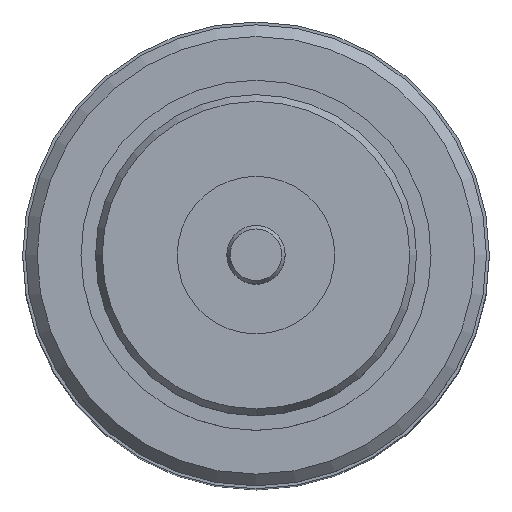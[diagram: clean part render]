
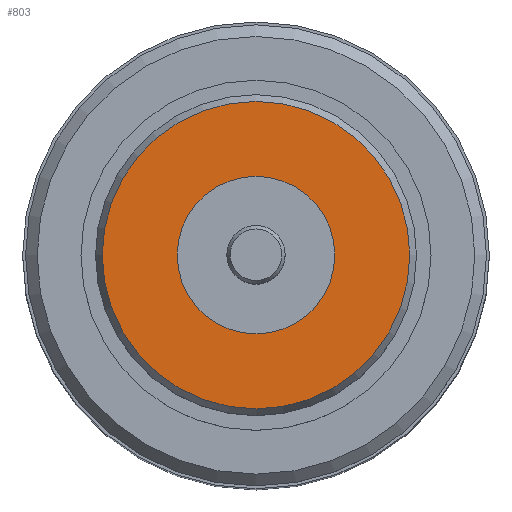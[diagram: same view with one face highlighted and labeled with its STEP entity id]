
A CAD part, top view. The second image highlights one B-rep face of the part: STEP entity #803.
In plain terms, the highlighted planar face has unit normal (0, 0, 1).
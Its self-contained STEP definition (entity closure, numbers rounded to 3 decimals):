
#701=PLANE('',#2160);
#803=ADVANCED_FACE('',(#896,#897),#701,.T.);
#896=FACE_BOUND('',#1038,.T.);
#897=FACE_BOUND('',#1039,.T.);
#1038=EDGE_LOOP('',(#1508));
#1039=EDGE_LOOP('',(#1509));
#1508=ORIENTED_EDGE('',*,*,#1917,.T.);
#1509=ORIENTED_EDGE('',*,*,#1918,.F.);
#1682=VERTEX_POINT('',#3562);
#1683=VERTEX_POINT('',#3564);
#1917=EDGE_CURVE('',#1682,#1682,#1993,.T.);
#1918=EDGE_CURVE('',#1683,#1683,#1994,.T.);
#1993=CIRCLE('',#2158,2.635);
#1994=CIRCLE('',#2159,1.35);
#2158=AXIS2_PLACEMENT_3D('',#3561,#2585,#2586);
#2159=AXIS2_PLACEMENT_3D('',#3563,#2587,#2588);
#2160=AXIS2_PLACEMENT_3D('',#3565,#2589,#2590);
#2585=DIRECTION('',(0.,0.,1.));
#2586=DIRECTION('',(1.,0.,0.));
#2587=DIRECTION('',(0.,0.,1.));
#2588=DIRECTION('',(1.,0.,0.));
#2589=DIRECTION('',(0.,0.,1.));
#2590=DIRECTION('',(1.,0.,0.));
#3561=CARTESIAN_POINT('',(0.,0.,1.9));
#3562=CARTESIAN_POINT('',(2.635,0.,1.9));
#3563=CARTESIAN_POINT('',(0.,0.,1.9));
#3564=CARTESIAN_POINT('',(1.35,0.,1.9));
#3565=CARTESIAN_POINT('',(0.,0.,1.9));
